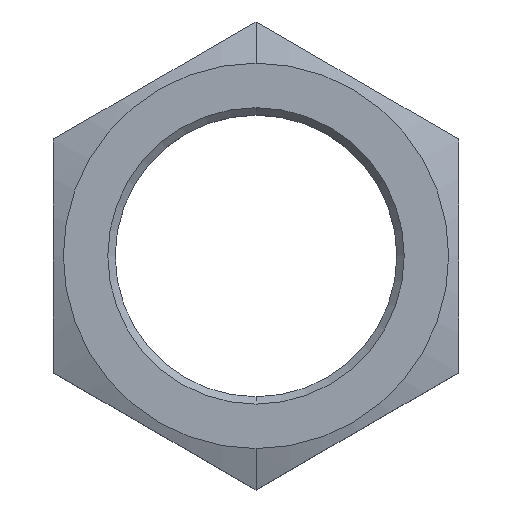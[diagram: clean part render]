
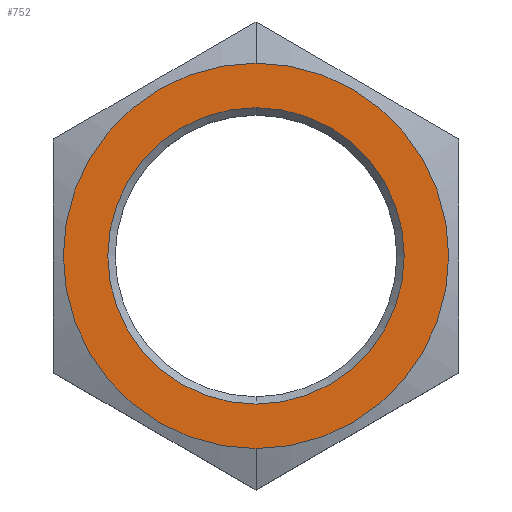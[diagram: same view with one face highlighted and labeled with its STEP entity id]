
A CAD part, top view. The second image highlights one B-rep face of the part: STEP entity #752.
In plain terms, the highlighted planar face has unit normal (0, 0, 1).
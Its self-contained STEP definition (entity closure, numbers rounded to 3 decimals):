
#141=CARTESIAN_POINT('',(0.,0.,11.));
#142=DIRECTION('',(0.,0.,1.));
#143=DIRECTION('',(0.,1.,0.));
#144=AXIS2_PLACEMENT_3D('',#141,#142,#143);
#149=CARTESIAN_POINT('',(0.,0.,11.));
#150=DIRECTION('',(0.,0.,1.));
#151=DIRECTION('',(0.,-1.,0.));
#152=AXIS2_PLACEMENT_3D('',#149,#150,#151);
#157=CARTESIAN_POINT('',(0.,0.,11.));
#158=DIRECTION('',(0.,0.,1.));
#159=DIRECTION('',(0.,1.,0.));
#160=AXIS2_PLACEMENT_3D('',#157,#158,#159);
#165=CARTESIAN_POINT('',(0.,0.,11.));
#166=DIRECTION('',(0.,0.,1.));
#167=DIRECTION('',(0.,-1.,0.));
#168=AXIS2_PLACEMENT_3D('',#165,#166,#167);
#612=CARTESIAN_POINT('',(0.,19.5,11.));
#613=CARTESIAN_POINT('',(0.,-19.5,11.));
#614=VERTEX_POINT('',#612);
#615=VERTEX_POINT('',#613);
#616=CARTESIAN_POINT('',(0.,15.,11.));
#617=CARTESIAN_POINT('',(0.,-15.,11.));
#618=VERTEX_POINT('',#616);
#619=VERTEX_POINT('',#617);
#736=CARTESIAN_POINT('',(0.,0.,11.));
#737=DIRECTION('',(0.,0.,1.));
#738=DIRECTION('',(1.,0.,0.));
#739=AXIS2_PLACEMENT_3D('',#736,#737,#738);
#740=PLANE('',#739);
#742=ORIENTED_EDGE('',*,*,#741,.F.);
#743=ORIENTED_EDGE('',*,*,#722,.F.);
#744=EDGE_LOOP('',(#742,#743));
#745=FACE_OUTER_BOUND('',#744,.F.);
#747=ORIENTED_EDGE('',*,*,#746,.T.);
#749=ORIENTED_EDGE('',*,*,#748,.T.);
#750=EDGE_LOOP('',(#747,#749));
#751=FACE_BOUND('',#750,.F.);
#752=ADVANCED_FACE('',(#745,#751),#740,.T.);
#145=CIRCLE('',#144,19.5);
#153=CIRCLE('',#152,19.5);
#161=CIRCLE('',#160,15.);
#169=CIRCLE('',#168,15.);
#722=EDGE_CURVE('',#615,#614,#153,.T.);
#741=EDGE_CURVE('',#614,#615,#145,.T.);
#746=EDGE_CURVE('',#618,#619,#161,.T.);
#748=EDGE_CURVE('',#619,#618,#169,.T.);
